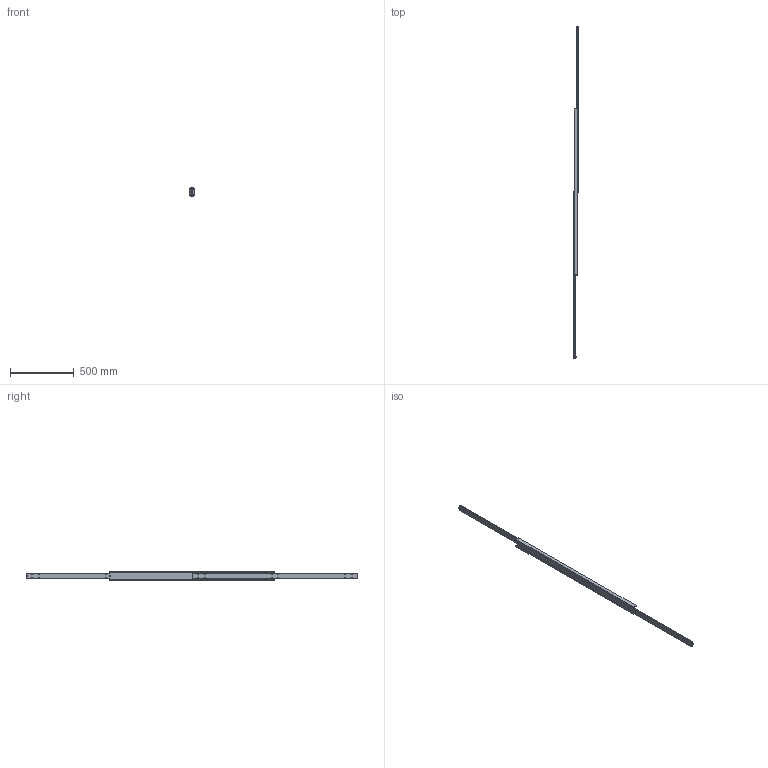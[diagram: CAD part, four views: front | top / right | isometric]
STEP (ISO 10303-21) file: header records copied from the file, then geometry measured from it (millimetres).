
FILE_DESCRIPTION(/* description */ (''),/* implementation_level */ '2;1');
FILE_NAME(/* name */ 'C:\Users\Miluxor\Desktop\Miluxor Schienen\Original Zeichnungen\Zeichnungen Schienen Komplett\MX-DTP70\MX-DTP70.130\MX-DTP70.130_ausgefahren.stp',/* time_stamp */ '2019-09-17T10:33:29+02:00',/* author */ ('Miluxor'),/* organization */ (''),/* preprocessor_version */ 'ST-DEVELOPER v16.13',/* originating_system */ 'AutoCAD Mechanical',/* authorisation */ '');
FILE_SCHEMA (('AUTOMOTIVE_DESIGN { 1 0 10303 214 3 1 1 }'));
Length unit declared in the file: millimetre
Products named in the file (1): Product
Bounding box: 32 x 2600 x 70 mm (x, y, z)
Volume: 2224428.8 mm3; surface area: 803497.7 mm2
Topology: 87 solids, 89 shells, 288 faces, 914 edges, 652 vertices
Faces by surface type: plane 126, sphere 76, cylinder 44, bspline 20, torus 18, cone 4
Full cylindrical faces by diameter (mm): 6 x2, 8 x24, 13 x2
Entity records: 28255 total; most frequent: CARTESIAN_POINT 20661, DIRECTION 1522, ORIENTED_EDGE 1204, EDGE_CURVE 694, VERTEX_POINT 634, AXIS2_PLACEMENT_3D 613, EDGE_LOOP 534, CIRCLE 336
